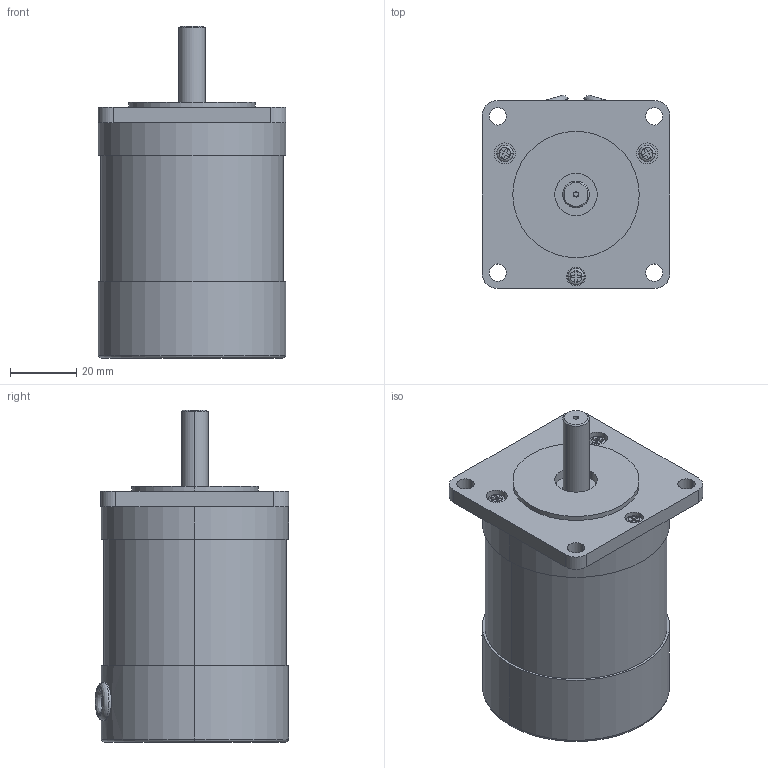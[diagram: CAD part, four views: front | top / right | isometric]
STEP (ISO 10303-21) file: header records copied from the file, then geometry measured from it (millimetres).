
FILE_DESCRIPTION (( 'STEP AP203' ), '1' );
FILE_NAME ('BLDC_Brushless_motor_57DMWH75_NEMA23_NoGearhead_Phidgets_DCM4106_0.STEP', '2022-06-28T21:56:10', ( '' ), ( '' ), 'SwSTEP 2.0', 'SolidWorks 2020', '' );
FILE_SCHEMA (( 'CONFIG_CONTROL_DESIGN' ));
Length unit declared in the file: millimetre
Products named in the file (1): BLDC_Brushless_motor_57DMWH75_NEMA23_NoGearhead_Phidgets_DCM4106_0
Bounding box: 56.55 x 58.24 x 100 mm (x, y, z)
Volume: 188520.7 mm3; surface area: 22038.2 mm2
Topology: 1 solids, 1 shells, 169 faces, 410 edges, 268 vertices
Faces by surface type: plane 69, cylinder 66, bspline 16, torus 10, cone 8
Entity records: 6575 total; most frequent: CARTESIAN_POINT 2500, DIRECTION 840, ORIENTED_EDGE 820, EDGE_CURVE 410, AXIS2_PLACEMENT_3D 320, VERTEX_POINT 268, EDGE_LOOP 202, LINE 200
